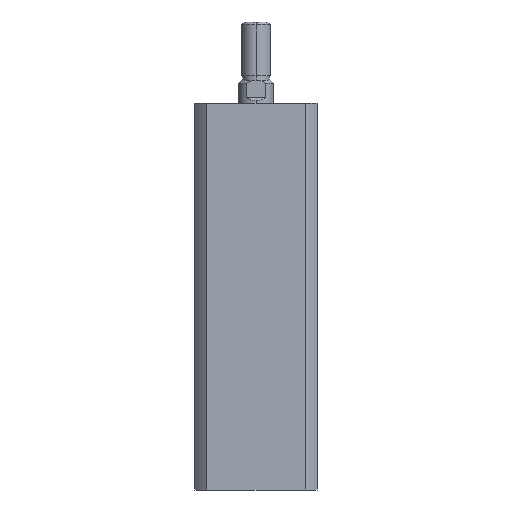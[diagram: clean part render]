
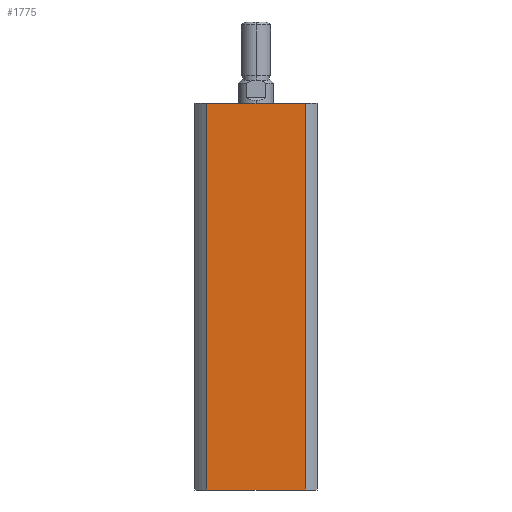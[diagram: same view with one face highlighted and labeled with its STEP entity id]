
A CAD part, left-side view. The second image highlights one B-rep face of the part: STEP entity #1775.
In plain terms, the highlighted planar face has unit normal (-1, 0, 0).
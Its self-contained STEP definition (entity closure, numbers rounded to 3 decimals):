
#454 = CARTESIAN_POINT ( 'NONE',  ( -21., 21., 133. ) ) ;
#461 = PLANE ( 'NONE',  #1551 ) ;
#463 = DIRECTION ( 'NONE',  ( 1., 0., 0. ) ) ;
#464 = DIRECTION ( 'NONE',  ( 0., 1., 0. ) ) ;
#865 = DIRECTION ( 'NONE',  ( 0., -1., 0. ) ) ;
#869 = CARTESIAN_POINT ( 'NONE',  ( -21., 21., 0. ) ) ;
#1039 = DIRECTION ( 'NONE',  ( 0., -1., 0. ) ) ;
#1045 = CARTESIAN_POINT ( 'NONE',  ( -21., 21., 133. ) ) ;
#1064 = CARTESIAN_POINT ( 'NONE',  ( -21., -16.971, 133. ) ) ;
#1065 = DIRECTION ( 'NONE',  ( 0., 0., -1. ) ) ;
#1066 = CARTESIAN_POINT ( 'NONE',  ( -21., 16.971, 133. ) ) ;
#1067 = DIRECTION ( 'NONE',  ( 0., 0., 1. ) ) ;
#1299 = LINE ( 'NONE', #869, #1300 ) ;
#1300 = VECTOR ( 'NONE', #865, 1000. ) ;
#1339 = LINE ( 'NONE', #1045, #1344 ) ;
#1344 = VECTOR ( 'NONE', #1039, 1000. ) ;
#1355 = LINE ( 'NONE', #1064, #1358 ) ;
#1357 = LINE ( 'NONE', #1066, #1360 ) ;
#1358 = VECTOR ( 'NONE', #1065, 1000. ) ;
#1360 = VECTOR ( 'NONE', #1067, 1000. ) ;
#1551 = AXIS2_PLACEMENT_3D ( 'NONE', #454, #463, #464 ) ;
#1775 = ADVANCED_FACE ( 'NONE', ( #3866 ), #461, .F. ) ;
#2032 = VERTEX_POINT ( 'NONE', #3222 ) ;
#2034 = VERTEX_POINT ( 'NONE', #3224 ) ;
#2042 = VERTEX_POINT ( 'NONE', #3232 ) ;
#2088 = EDGE_LOOP ( 'NONE', ( #2314, #2315, #2316, #2317 ) ) ;
#2275 = VERTEX_POINT ( 'NONE', #3310 ) ;
#2314 = ORIENTED_EDGE ( 'NONE', *, *, #4736, .F. ) ;
#2315 = ORIENTED_EDGE ( 'NONE', *, *, #4728, .F. ) ;
#2316 = ORIENTED_EDGE ( 'NONE', *, *, #4737, .F. ) ;
#2317 = ORIENTED_EDGE ( 'NONE', *, *, #4690, .T. ) ;
#3222 = CARTESIAN_POINT ( 'NONE',  ( -21., 16.971, 133. ) ) ;
#3224 = CARTESIAN_POINT ( 'NONE',  ( -21., -16.971, 0. ) ) ;
#3232 = CARTESIAN_POINT ( 'NONE',  ( -21., 16.971, 0. ) ) ;
#3310 = CARTESIAN_POINT ( 'NONE',  ( -21., -16.971, 133. ) ) ;
#3866 = FACE_OUTER_BOUND ( 'NONE', #2088, .T. ) ;
#4690 = EDGE_CURVE ( 'NONE', #2042, #2034, #1299, .T. ) ;
#4728 = EDGE_CURVE ( 'NONE', #2032, #2275, #1339, .T. ) ;
#4736 = EDGE_CURVE ( 'NONE', #2275, #2034, #1355, .T. ) ;
#4737 = EDGE_CURVE ( 'NONE', #2042, #2032, #1357, .T. ) ;
